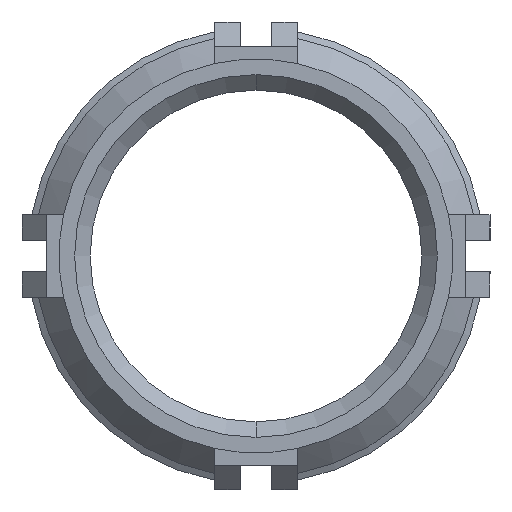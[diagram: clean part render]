
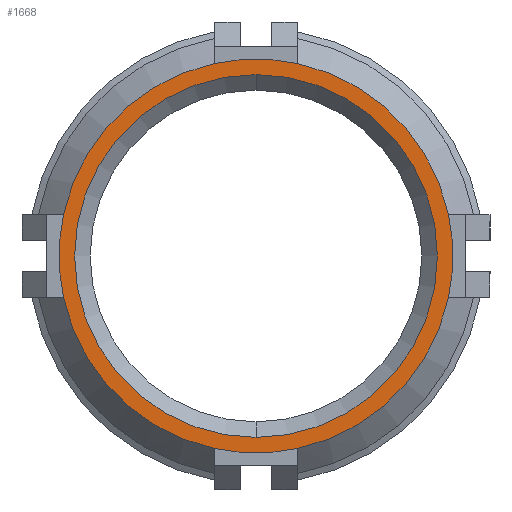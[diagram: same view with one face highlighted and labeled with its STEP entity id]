
A CAD part, front view. The second image highlights one B-rep face of the part: STEP entity #1668.
In plain terms, the highlighted planar face has unit normal (0, -1, 0).
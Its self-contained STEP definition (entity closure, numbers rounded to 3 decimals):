
#41 = ORIENTED_EDGE ( 'NONE', *, *, #1206, .T. ) ;
#56 = VERTEX_POINT ( 'NONE', #609 ) ;
#154 = DIRECTION ( 'NONE',  ( 0., -1., 0. ) ) ;
#218 = DIRECTION ( 'NONE',  ( 0., 0., 1. ) ) ;
#246 = CARTESIAN_POINT ( 'NONE',  ( 0., -22., 0. ) ) ;
#314 = VERTEX_POINT ( 'NONE', #6649 ) ;
#329 = CARTESIAN_POINT ( 'NONE',  ( 0., -22., 0. ) ) ;
#357 = EDGE_CURVE ( 'NONE', #1652, #5469, #955, .T. ) ;
#363 = ORIENTED_EDGE ( 'NONE', *, *, #3960, .T. ) ;
#609 = CARTESIAN_POINT ( 'NONE',  ( -9.287, -22., -2. ) ) ;
#623 = AXIS2_PLACEMENT_3D ( 'NONE', #4911, #154, #2263 ) ;
#631 = AXIS2_PLACEMENT_3D ( 'NONE', #3345, #5478, #5624 ) ;
#643 = CARTESIAN_POINT ( 'NONE',  ( 0., -22., 0. ) ) ;
#951 = CARTESIAN_POINT ( 'NONE',  ( 9.287, -22., -2. ) ) ;
#955 = CIRCLE ( 'NONE', #4951, 9.5 ) ;
#965 = DIRECTION ( 'NONE',  ( 0., 0., 1. ) ) ;
#979 = CARTESIAN_POINT ( 'NONE',  ( 0., -22., 8.75 ) ) ;
#1012 = ORIENTED_EDGE ( 'NONE', *, *, #2931, .T. ) ;
#1075 = CIRCLE ( 'NONE', #3626, 8.75 ) ;
#1098 = AXIS2_PLACEMENT_3D ( 'NONE', #329, #3452, #3559 ) ;
#1198 = EDGE_CURVE ( 'NONE', #2398, #1958, #5515, .T. ) ;
#1199 = DIRECTION ( 'NONE',  ( 0., -1., 0. ) ) ;
#1206 = EDGE_CURVE ( 'NONE', #314, #3154, #6414, .T. ) ;
#1207 = CIRCLE ( 'NONE', #1098, 9.5 ) ;
#1652 = VERTEX_POINT ( 'NONE', #2143 ) ;
#1668 = ADVANCED_FACE ( 'NONE', ( #5278, #5737 ), #4229, .F. ) ;
#1876 = DIRECTION ( 'NONE',  ( 0., 0., -1. ) ) ;
#1899 = ORIENTED_EDGE ( 'NONE', *, *, #5322, .T. ) ;
#1912 = EDGE_CURVE ( 'NONE', #56, #1652, #4854, .T. ) ;
#1958 = VERTEX_POINT ( 'NONE', #5132 ) ;
#2036 = CARTESIAN_POINT ( 'NONE',  ( 0., -22., 0. ) ) ;
#2143 = CARTESIAN_POINT ( 'NONE',  ( -2., -22., -9.287 ) ) ;
#2190 = AXIS2_PLACEMENT_3D ( 'NONE', #246, #3545, #1876 ) ;
#2263 = DIRECTION ( 'NONE',  ( 0., 0., 1. ) ) ;
#2351 = DIRECTION ( 'NONE',  ( -1., 0., 0. ) ) ;
#2398 = VERTEX_POINT ( 'NONE', #6403 ) ;
#2512 = AXIS2_PLACEMENT_3D ( 'NONE', #4353, #1199, #5645 ) ;
#2629 = CIRCLE ( 'NONE', #2836, 9.5 ) ;
#2658 = VERTEX_POINT ( 'NONE', #951 ) ;
#2786 = CARTESIAN_POINT ( 'NONE',  ( 9.287, -22., 2. ) ) ;
#2836 = AXIS2_PLACEMENT_3D ( 'NONE', #3362, #4979, #218 ) ;
#2890 = EDGE_CURVE ( 'NONE', #5469, #2658, #3176, .T. ) ;
#2916 = ORIENTED_EDGE ( 'NONE', *, *, #1912, .T. ) ;
#2931 = EDGE_CURVE ( 'NONE', #1958, #56, #2629, .T. ) ;
#3069 = CIRCLE ( 'NONE', #2190, 9.5 ) ;
#3154 = VERTEX_POINT ( 'NONE', #979 ) ;
#3171 = EDGE_CURVE ( 'NONE', #3154, #314, #1075, .T. ) ;
#3176 = CIRCLE ( 'NONE', #623, 9.5 ) ;
#3204 = VERTEX_POINT ( 'NONE', #5258 ) ;
#3206 = AXIS2_PLACEMENT_3D ( 'NONE', #4633, #5024, #3519 ) ;
#3345 = CARTESIAN_POINT ( 'NONE',  ( 0., -22., 0. ) ) ;
#3361 = ORIENTED_EDGE ( 'NONE', *, *, #357, .T. ) ;
#3362 = CARTESIAN_POINT ( 'NONE',  ( 0., -22., 0. ) ) ;
#3387 = DIRECTION ( 'NONE',  ( 0., -1., 0. ) ) ;
#3449 = EDGE_LOOP ( 'NONE', ( #41, #6049 ) ) ;
#3452 = DIRECTION ( 'NONE',  ( 0., -1., 0. ) ) ;
#3519 = DIRECTION ( 'NONE',  ( 1., 0., 0. ) ) ;
#3545 = DIRECTION ( 'NONE',  ( 0., -1., 0. ) ) ;
#3559 = DIRECTION ( 'NONE',  ( 0., 0., 1. ) ) ;
#3626 = AXIS2_PLACEMENT_3D ( 'NONE', #4170, #6314, #4209 ) ;
#3644 = DIRECTION ( 'NONE',  ( 0., 1., 0. ) ) ;
#3770 = CIRCLE ( 'NONE', #3206, 9.5 ) ;
#3960 = EDGE_CURVE ( 'NONE', #2658, #6277, #3069, .T. ) ;
#4170 = CARTESIAN_POINT ( 'NONE',  ( 0., -22., 0. ) ) ;
#4209 = DIRECTION ( 'NONE',  ( 0., 0., 1. ) ) ;
#4229 = PLANE ( 'NONE',  #6750 ) ;
#4353 = CARTESIAN_POINT ( 'NONE',  ( 0., -22., 0. ) ) ;
#4585 = ORIENTED_EDGE ( 'NONE', *, *, #5106, .T. ) ;
#4633 = CARTESIAN_POINT ( 'NONE',  ( 0., -22., 0. ) ) ;
#4738 = CARTESIAN_POINT ( 'NONE',  ( 2., -22., -9.287 ) ) ;
#4854 = CIRCLE ( 'NONE', #631, 9.5 ) ;
#4911 = CARTESIAN_POINT ( 'NONE',  ( 0., -22., 0. ) ) ;
#4951 = AXIS2_PLACEMENT_3D ( 'NONE', #5988, #3387, #2351 ) ;
#4979 = DIRECTION ( 'NONE',  ( 0., -1., 0. ) ) ;
#5024 = DIRECTION ( 'NONE',  ( 0., -1., 0. ) ) ;
#5106 = EDGE_CURVE ( 'NONE', #6277, #3204, #1207, .T. ) ;
#5132 = CARTESIAN_POINT ( 'NONE',  ( -9.287, -22., 2. ) ) ;
#5258 = CARTESIAN_POINT ( 'NONE',  ( 2., -22., 9.287 ) ) ;
#5278 = FACE_BOUND ( 'NONE', #3449, .T. ) ;
#5322 = EDGE_CURVE ( 'NONE', #3204, #2398, #3770, .T. ) ;
#5469 = VERTEX_POINT ( 'NONE', #4738 ) ;
#5478 = DIRECTION ( 'NONE',  ( 0., -1., 0. ) ) ;
#5515 = CIRCLE ( 'NONE', #2512, 9.5 ) ;
#5624 = DIRECTION ( 'NONE',  ( 0., 0., 1. ) ) ;
#5645 = DIRECTION ( 'NONE',  ( 0., 0., 1. ) ) ;
#5737 = FACE_OUTER_BOUND ( 'NONE', #6046, .T. ) ;
#5965 = AXIS2_PLACEMENT_3D ( 'NONE', #643, #6492, #6595 ) ;
#5988 = CARTESIAN_POINT ( 'NONE',  ( 0., -22., 0. ) ) ;
#6046 = EDGE_LOOP ( 'NONE', ( #1012, #2916, #3361, #6777, #363, #4585, #1899, #6574 ) ) ;
#6049 = ORIENTED_EDGE ( 'NONE', *, *, #3171, .T. ) ;
#6277 = VERTEX_POINT ( 'NONE', #2786 ) ;
#6314 = DIRECTION ( 'NONE',  ( 0., 1., 0. ) ) ;
#6403 = CARTESIAN_POINT ( 'NONE',  ( -2., -22., 9.287 ) ) ;
#6414 = CIRCLE ( 'NONE', #5965, 8.75 ) ;
#6492 = DIRECTION ( 'NONE',  ( 0., 1., 0. ) ) ;
#6574 = ORIENTED_EDGE ( 'NONE', *, *, #1198, .T. ) ;
#6595 = DIRECTION ( 'NONE',  ( 0., 0., 1. ) ) ;
#6649 = CARTESIAN_POINT ( 'NONE',  ( 0., -22., -8.75 ) ) ;
#6750 = AXIS2_PLACEMENT_3D ( 'NONE', #2036, #3644, #965 ) ;
#6777 = ORIENTED_EDGE ( 'NONE', *, *, #2890, .T. ) ;
